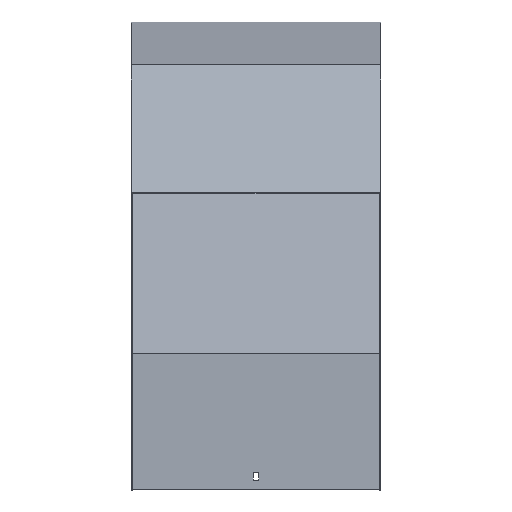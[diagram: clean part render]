
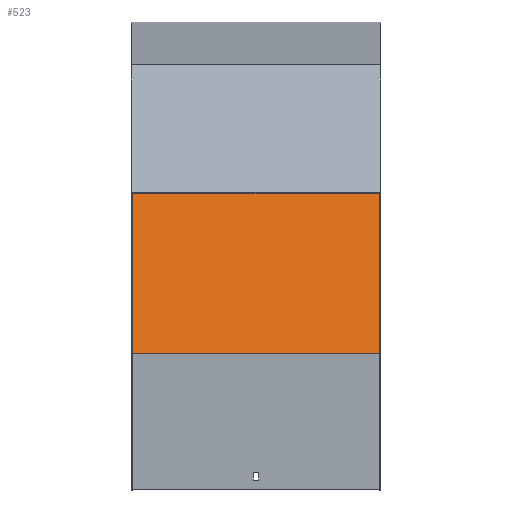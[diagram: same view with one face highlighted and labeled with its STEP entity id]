
A CAD part, top view. The second image highlights one B-rep face of the part: STEP entity #523.
In plain terms, the highlighted planar face has unit normal (0, 0.259, 0.966).
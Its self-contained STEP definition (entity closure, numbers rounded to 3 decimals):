
#73 = CARTESIAN_POINT ( 'NONE',  ( 151.5, -193.079, 518.459 ) ) ;
#76 = EDGE_LOOP ( 'NONE', ( #600, #754, #937, #436 ) ) ;
#98 = VECTOR ( 'NONE', #1117, 1000. ) ;
#105 = DIRECTION ( 'NONE',  ( 0., -0.966, 0.259 ) ) ;
#111 = CARTESIAN_POINT ( 'NONE',  ( 151.5, -383.978, 569.611 ) ) ;
#121 = EDGE_CURVE ( 'NONE', #391, #1039, #778, .T. ) ;
#226 = VERTEX_POINT ( 'NONE', #572 ) ;
#256 = CARTESIAN_POINT ( 'NONE',  ( 151.5, -187.902, 517.072 ) ) ;
#276 = DIRECTION ( 'NONE',  ( 0., 0.966, -0.259 ) ) ;
#343 = CARTESIAN_POINT ( 'NONE',  ( -151.5, -187.902, 517.072 ) ) ;
#357 = CARTESIAN_POINT ( 'NONE',  ( 151.5, -193.079, 518.459 ) ) ;
#391 = VERTEX_POINT ( 'NONE', #343 ) ;
#432 = AXIS2_PLACEMENT_3D ( 'NONE', #357, #1054, #276 ) ;
#436 = ORIENTED_EDGE ( 'NONE', *, *, #686, .T. ) ;
#443 = CARTESIAN_POINT ( 'NONE',  ( 151.5, -187.902, 517.072 ) ) ;
#447 = FACE_OUTER_BOUND ( 'NONE', #76, .T. ) ;
#508 = VERTEX_POINT ( 'NONE', #443 ) ;
#523 = ADVANCED_FACE ( 'NONE', ( #447 ), #788, .F. ) ;
#553 = CARTESIAN_POINT ( 'NONE',  ( -151.5, -383.978, 569.611 ) ) ;
#572 = CARTESIAN_POINT ( 'NONE',  ( 151.5, -383.978, 569.611 ) ) ;
#595 = LINE ( 'NONE', #256, #98 ) ;
#600 = ORIENTED_EDGE ( 'NONE', *, *, #121, .T. ) ;
#677 = VECTOR ( 'NONE', #1053, 1000. ) ;
#680 = DIRECTION ( 'NONE',  ( 0., -0.966, 0.259 ) ) ;
#686 = EDGE_CURVE ( 'NONE', #508, #391, #595, .T. ) ;
#694 = CARTESIAN_POINT ( 'NONE',  ( -151.5, -193.079, 518.459 ) ) ;
#718 = EDGE_CURVE ( 'NONE', #508, #226, #846, .T. ) ;
#754 = ORIENTED_EDGE ( 'NONE', *, *, #1095, .F. ) ;
#778 = LINE ( 'NONE', #694, #839 ) ;
#788 = PLANE ( 'NONE',  #432 ) ;
#804 = LINE ( 'NONE', #111, #677 ) ;
#839 = VECTOR ( 'NONE', #105, 1000. ) ;
#846 = LINE ( 'NONE', #73, #864 ) ;
#864 = VECTOR ( 'NONE', #680, 1000. ) ;
#937 = ORIENTED_EDGE ( 'NONE', *, *, #718, .F. ) ;
#1039 = VERTEX_POINT ( 'NONE', #553 ) ;
#1053 = DIRECTION ( 'NONE',  ( -1., 0., 0. ) ) ;
#1054 = DIRECTION ( 'NONE',  ( 0., -0.259, -0.966 ) ) ;
#1095 = EDGE_CURVE ( 'NONE', #226, #1039, #804, .T. ) ;
#1117 = DIRECTION ( 'NONE',  ( -1., 0., 0. ) ) ;
